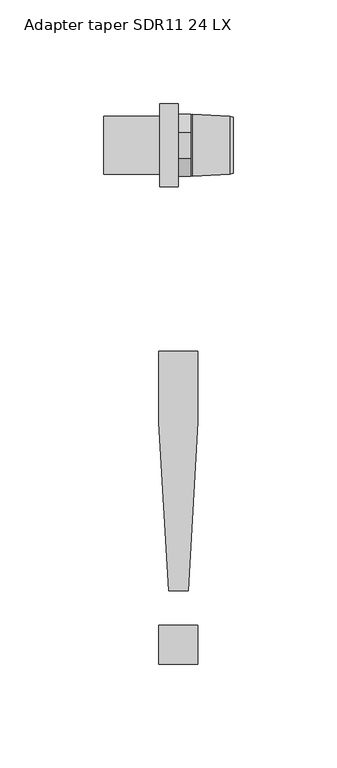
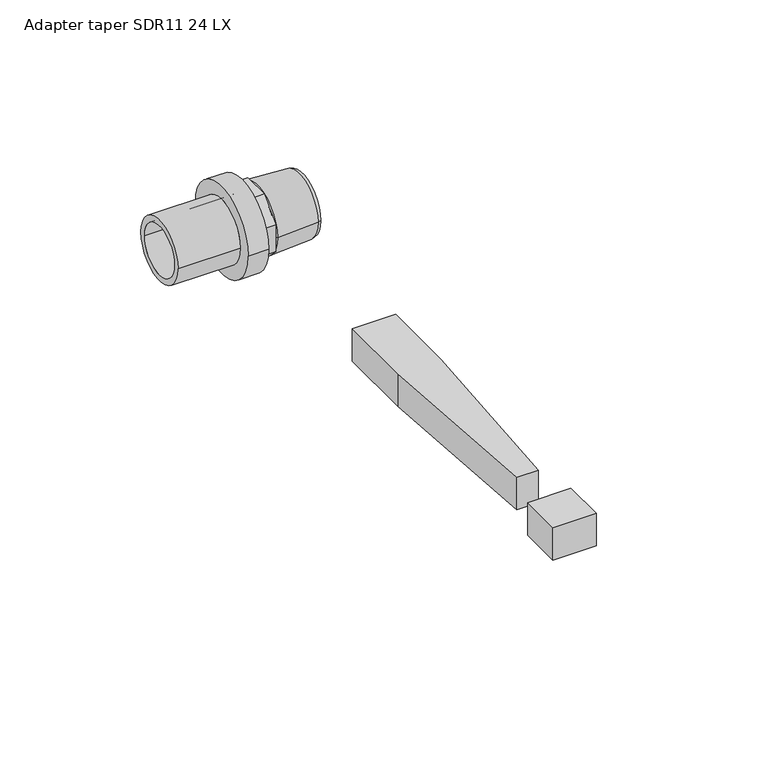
"""IFC4 building model written with IfcOpenShell, lengths in millimetres: pipe fitting geometry, Adapter taper SDR11 LX 24 Grad : Adapter taper SDR11 24 LX."""

from ifc_helpers import new_model, si_unit, frame, origin, origin_with_axes, place, context, project, spatial, polyline, circle_curve, outline, extrude, source, transform, mapped, element, save
from ifc_brep_helpers import plane_surface, cylinder_surface, revolved_surface, advanced_brep


def adapter_taper_sdr11_24_lx_b2e9e195(model_context):
    return source(origin(), model_context, "Body", "SolidModel", [
        extrude(outline(polyline([(-4.7088895, -214.6833285), (-9.4177791, -133.3446193), (-9.4177791, -99.3155348), (9.4177791, -99.3155348), (9.4177791, -133.3446193), (4.7088895, -214.6833285), (-4.7088895, -214.6833285)])), origin_with_axes(), (0.0, 0.0, 1.0), 15.0),
        extrude(outline(polyline([(-9.4177791, -250.0), (-9.4177791, -231.1644418), (9.4177791, -231.1644418), (9.4177791, -250.0), (-9.4177791, -250.0)])), origin_with_axes(), (0.0, 0.0, 1.0), 15.0),
        advanced_brep(
        [(-8.9, 13.95, 0.0), (-8.9, -13.95, 0.0), (-35.9, -13.95, 0.0), (-35.9, 13.95, 0.0), (0.0, 20.0, 0.0), (0.0, -20.0, 0.0), (-8.9, -20.0, 0.0), (-8.9, 20.0, 0.0), (-35.9, 11.2, 0.0), (-35.9, -11.2, 0.0), (0.0, -11.2, 0.0), (0.0, 11.2, 0.0)],
        [
            (0, 1, circle_curve(frame((-8.9, 0.0, 0.0), z_axis=(-1.0, 0.0, 0.0), x_axis=(0.0, -1.0, 0.0)), 13.95)),
            (1, 2),
            (2, 3, circle_curve(frame((-35.9, 0.0, 0.0), z_axis=(1.0, 0.0, 0.0), x_axis=(0.0, -1.0, 0.0)), 13.95)),
            (3, 0),
            (4, 5, circle_curve(frame((0.0, 0.0, 0.0), z_axis=(-1.0, 0.0, 0.0), x_axis=(0.0, -1.0, 0.0)), 20.0)),
            (5, 6),
            (6, 7, circle_curve(frame((-8.9, 0.0, 0.0), z_axis=(1.0, 0.0, 0.0), x_axis=(0.0, -1.0, 0.0)), 20.0)),
            (7, 4),
            (8, 9, circle_curve(frame((-35.9, 0.0, 0.0), z_axis=(-1.0, 0.0, 0.0), x_axis=(0.0, -1.0, 0.0)), 11.2)),
            (9, 10),
            (10, 11, circle_curve(frame((0.0, 0.0, 0.0), z_axis=(1.0, 0.0, 0.0), x_axis=(0.0, -1.0, 0.0)), 11.2)),
            (11, 8),
            (2, 3, circle_curve(frame((-35.9, 0.0, 0.0), z_axis=(-1.0, 0.0, 0.0), x_axis=(0.0, 1.0, 0.0)), 13.95)),
            (8, 9, circle_curve(frame((-35.9, 0.0, 0.0), z_axis=(1.0, 0.0, 0.0), x_axis=(0.0, 1.0, 0.0)), 11.2)),
            (1, 0, circle_curve(frame((-8.9, 0.0, 0.0), z_axis=(-1.0, 0.0, 0.0), x_axis=(0.0, 1.0, 0.0)), 13.95)),
            (6, 7, circle_curve(frame((-8.9, 0.0, 0.0), z_axis=(-1.0, 0.0, 0.0), x_axis=(0.0, 1.0, 0.0)), 20.0)),
            (5, 4, circle_curve(frame((0.0, 0.0, 0.0), z_axis=(-1.0, 0.0, 0.0), x_axis=(0.0, 1.0, 0.0)), 20.0)),
            (10, 11, circle_curve(frame((0.0, 0.0, 0.0), z_axis=(-1.0, 0.0, 0.0), x_axis=(0.0, 1.0, 0.0)), 11.2)),
        ],
        [
            cylinder_surface(frame((0.0, 0.0, 0.0), z_axis=(1.0, 0.0, 0.0), x_axis=(0.0, -1.0, 0.0)), 13.95),
            cylinder_surface(frame((0.0, 0.0, 0.0), z_axis=(1.0, 0.0, 0.0), x_axis=(0.0, -1.0, 0.0)), 20.0),
            revolved_surface(polyline([(0.0, -11.2, 0.0), (-35.9, -11.2, 0.0)]), (0.0, 0.0, 0.0), (1.0, 0.0, 0.0)),
            plane_surface(frame((-35.9, 0.0, 0.0), z_axis=(-1.0, 0.0, 0.0), x_axis=(0.0, 1.0, 0.0))),
            cylinder_surface(frame((0.0, 0.0, 0.0), z_axis=(1.0, 0.0, 0.0), x_axis=(0.0, 1.0, 0.0)), 13.95),
            plane_surface(frame((-8.9, 0.0, 0.0), z_axis=(-1.0, 0.0, 0.0), x_axis=(0.0, 1.0, 0.0))),
            cylinder_surface(frame((0.0, 0.0, 0.0), z_axis=(1.0, 0.0, 0.0), x_axis=(0.0, 1.0, 0.0)), 20.0),
            plane_surface(frame((0.0, 0.0, 0.0), z_axis=(1.0, 0.0, 0.0), x_axis=(0.0, 1.0, 0.0))),
            revolved_surface(polyline([(0.0, 11.2, 0.0), (-35.9, 11.2, 0.0)]), (0.0, 0.0, 0.0), (1.0, 0.0, 0.0)),
        ],
        [
            (0, [[1, 2, 3, 4]]),
            (1, [[5, 6, 7, 8]]),
            (2, [[9, 10, 11, 12]]),
            (3, [[13, -3], [14, -9]]),
            (4, [[15, -4, -13, -2]]),
            (5, [[16, -7], [-15, -1]]),
            (6, [[17, -8, -16, -6]]),
            (7, [[-17, -5], [18, -11]]),
            (8, [[-14, -12, -18, -10]]),
        ],
    ),
        advanced_brep(
        [(7.1032803, 11.0, 0.0), (7.1032803, -11.0, 0.0), (26.4, -11.0, 0.0), (26.4, 11.0, 0.0), (6.0, 9.8967197, 0.0), (6.0, -9.8967197, 0.0), (6.7406902, 15.0, 0.0), (6.7406902, -15.0, 0.0), (6.0, -14.5, 0.0), (6.0, 14.5, 0.0), (24.9000007, 14.0, 0.0), (24.9000007, -14.0, 0.0), (26.4, 13.5, 0.0), (26.4, -13.5, 0.0)],
        [
            (0, 1, circle_curve(frame((7.1032803, 0.0, 0.0), z_axis=(-1.0, 0.0, 0.0), x_axis=(0.0, -1.0, 0.0)), 11.0)),
            (1, 2),
            (2, 3, circle_curve(frame((26.4, 0.0, 0.0), z_axis=(1.0, 0.0, 0.0), x_axis=(0.0, -1.0, 0.0)), 11.0)),
            (3, 0),
            (4, 5, circle_curve(frame((6.0, 0.0, 0.0), z_axis=(-1.0, 0.0, 0.0), x_axis=(0.0, -1.0, 0.0)), 9.8967197)),
            (5, 1),
            (0, 4),
            (6, 7, circle_curve(frame((6.7406902, 0.0, 0.0), z_axis=(-1.0, 0.0, 0.0), x_axis=(0.0, -1.0, 0.0)), 15.0)),
            (7, 8),
            (8, 9, circle_curve(frame((6.0, 0.0, 0.0), z_axis=(1.0, 0.0, 0.0), x_axis=(0.0, -1.0, 0.0)), 14.5)),
            (9, 6),
            (10, 11, circle_curve(frame((24.9000007, 0.0, 0.0), z_axis=(-1.0, 0.0, 0.0), x_axis=(0.0, -1.0, 0.0)), 14.0)),
            (11, 7),
            (6, 10),
            (12, 13, circle_curve(frame((26.4, 0.0, 0.0), z_axis=(-1.0, 0.0, 0.0), x_axis=(0.0, -1.0, 0.0)), 13.5)),
            (13, 11),
            (10, 12),
            (1, 0, circle_curve(frame((7.1032803, 0.0, 0.0), z_axis=(-1.0, 0.0, 0.0), x_axis=(0.0, 1.0, 0.0)), 11.0)),
            (3, 2, circle_curve(frame((26.4, 0.0, 0.0), z_axis=(1.0, 0.0, 0.0), x_axis=(0.0, 1.0, 0.0)), 11.0)),
            (5, 4, circle_curve(frame((6.0, 0.0, 0.0), z_axis=(-1.0, 0.0, 0.0), x_axis=(0.0, 1.0, 0.0)), 9.8967197)),
            (8, 9, circle_curve(frame((6.0, 0.0, 0.0), z_axis=(-1.0, 0.0, 0.0), x_axis=(0.0, 1.0, 0.0)), 14.5)),
            (7, 6, circle_curve(frame((6.7406902, 0.0, 0.0), z_axis=(-1.0, 0.0, 0.0), x_axis=(0.0, 1.0, 0.0)), 15.0)),
            (11, 10, circle_curve(frame((24.9000007, 0.0, 0.0), z_axis=(-1.0, 0.0, 0.0), x_axis=(0.0, 1.0, 0.0)), 14.0)),
            (13, 12, circle_curve(frame((26.4, 0.0, 0.0), z_axis=(-1.0, 0.0, 0.0), x_axis=(0.0, 1.0, 0.0)), 13.5)),
        ],
        [
            revolved_surface(polyline([(26.4, -11.0, 0.0), (7.1032803, -11.0, 0.0)]), (0.0, 0.0, 0.0), (1.0, 0.0, 0.0)),
            revolved_surface(polyline([(7.1032803, -11.0, 0.0), (6.0, -9.8967197, 0.0)]), (0.0, 0.0, 0.0), (1.0, 0.0, 0.0)),
            revolved_surface(polyline([(6.0, -14.5, 0.0), (6.7406902, -15.0, 0.0)]), (0.0, 0.0, 0.0), (1.0, 0.0, 0.0)),
            revolved_surface(polyline([(6.7406902, -15.0, 0.0), (24.9000007, -14.0, 0.0)]), (0.0, 0.0, 0.0), (1.0, 0.0, 0.0)),
            revolved_surface(polyline([(24.9000007, -14.0, 0.0), (26.4, -13.5, 0.0)]), (0.0, 0.0, 0.0), (1.0, 0.0, 0.0)),
            revolved_surface(polyline([(26.4, 11.0, 0.0), (7.1032803, 11.0, 0.0)]), (0.0, 0.0, 0.0), (1.0, 0.0, 0.0)),
            revolved_surface(polyline([(7.1032803, 11.0, 0.0), (6.0, 9.8967197, 0.0)]), (0.0, 0.0, 0.0), (1.0, 0.0, 0.0)),
            plane_surface(frame((6.0, 0.0, 0.0), z_axis=(-1.0, 0.0, 0.0), x_axis=(0.0, 1.0, 0.0))),
            revolved_surface(polyline([(6.0, 14.5, 0.0), (6.7406902, 15.0, 0.0)]), (0.0, 0.0, 0.0), (1.0, 0.0, 0.0)),
            revolved_surface(polyline([(6.7406902, 15.0, 0.0), (24.9000007, 14.0, 0.0)]), (0.0, 0.0, 0.0), (1.0, 0.0, 0.0)),
            revolved_surface(polyline([(24.9000007, 14.0, 0.0), (26.4, 13.5, 0.0)]), (0.0, 0.0, 0.0), (1.0, 0.0, 0.0)),
            plane_surface(frame((26.4, 0.0, 0.0), z_axis=(1.0, 0.0, 0.0), x_axis=(0.0, 1.0, 0.0))),
        ],
        [
            (0, [[1, 2, 3, 4]]),
            (1, [[5, 6, -1, 7]]),
            (2, [[8, 9, 10, 11]]),
            (3, [[12, 13, -8, 14]]),
            (4, [[15, 16, -12, 17]]),
            (5, [[18, -4, 19, -2]]),
            (6, [[20, -7, -18, -6]]),
            (7, [[21, -10], [-20, -5]]),
            (8, [[22, -11, -21, -9]]),
            (9, [[23, -14, -22, -13]]),
            (10, [[24, -17, -23, -16]]),
            (11, [[-24, -15], [-19, -3]]),
        ],
    ),
        extrude(outline(polyline([(-15.0, 6.2132034), (-6.2132034, 15.0), (6.2132034, 15.0), (15.0, 6.2132034), (15.0, -6.2132034), (6.2132034, -15.0), (-6.2132034, -15.0), (-15.0, -6.2132034), (-15.0, 6.2132034)])), frame((0.0, 0.0, 0.0), z_axis=(1.0, 0.0, 0.0), x_axis=(0.0, 1.0, 0.0)), (0.0, 0.0, 1.0), 6.0),
    ])


if __name__ == "__main__":
    model = new_model("IFC4")
    model_context = context("Model", 3, world=origin())
    ifc_project = project(units=[si_unit("LENGTHUNIT", "METRE", prefix="MILLI")], contexts=[model_context])
    site = spatial("IfcSite", under=ifc_project)
    building = spatial("IfcBuilding", under=site)
    placement = place(None, origin())
    adapter_taper_sdr11_24_lx_shape = adapter_taper_sdr11_24_lx_b2e9e195(model_context)
    element("IfcPipeFitting", 1, ObjectType="Adapter taper SDR11 LX 24 Grad : Adapter taper SDR11 24 LX", at=placement, inside=building, context=model_context, shape_type="MappedRepresentation", body=[
        mapped(adapter_taper_sdr11_24_lx_shape, transform((0.0, 0.0, 0.0), x_axis=(1.0, 0.0, 0.0), y_axis=(0.0, 1.0, 0.0), z_axis=(0.0, 0.0, 1.0))),
    ])
    save(model, "model.ifc")
